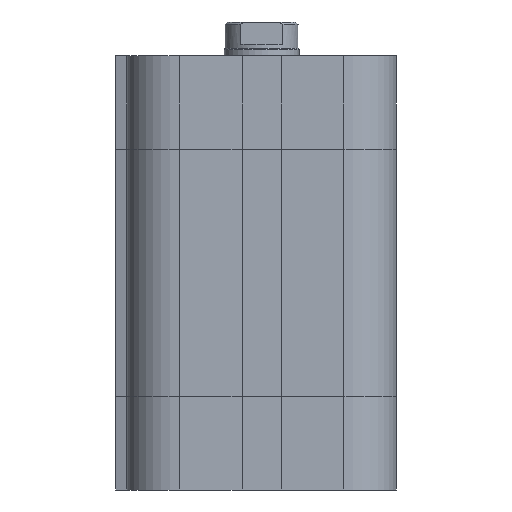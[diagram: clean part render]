
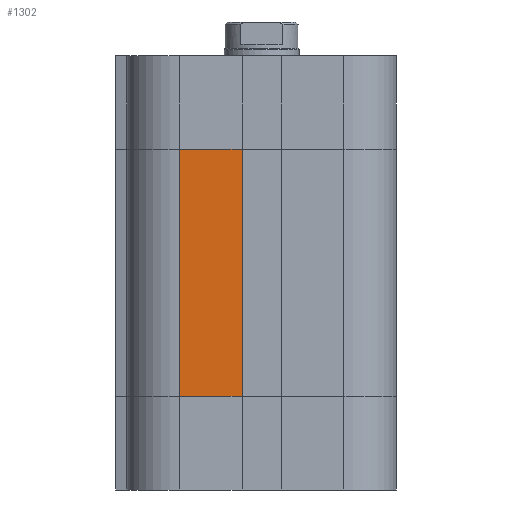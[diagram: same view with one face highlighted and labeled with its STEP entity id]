
A CAD part, left-side view. The second image highlights one B-rep face of the part: STEP entity #1302.
In plain terms, the highlighted planar face has unit normal (-1, 0, 0).
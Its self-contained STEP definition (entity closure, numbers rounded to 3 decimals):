
#1213=CARTESIAN_POINT('',(-18.,11.0,12.5));
#1214=VERTEX_POINT('',#1213);
#1222=CARTESIAN_POINT('',(-18.,11.0,45.5));
#1223=VERTEX_POINT('',#1222);
#1224=CARTESIAN_POINT('',(-18.,11.0,12.5));
#1225=DIRECTION('',(0.0,0.0,1.0));
#1226=VECTOR('',#1225,33.);
#1227=LINE('',#1224,#1226);
#1228=EDGE_CURVE('',#1214,#1223,#1227,.T.);
#1272=CARTESIAN_POINT('',(-18.0,2.6,0.0));
#1273=DIRECTION('',(-1.0,0.0,0.0));
#1274=DIRECTION('',(0.0,0.0,1.0));
#1275=AXIS2_PLACEMENT_3D('',#1272,#1273,#1274);
#1276=PLANE('',#1275);
#1277=CARTESIAN_POINT('',(-18.0,2.6,12.5));
#1278=VERTEX_POINT('',#1277);
#1279=CARTESIAN_POINT('',(-18.,11.0,12.5));
#1280=DIRECTION('',(0.0,-1.0,0.0));
#1281=VECTOR('',#1280,8.4);
#1282=LINE('',#1279,#1281);
#1283=EDGE_CURVE('',#1214,#1278,#1282,.T.);
#1284=ORIENTED_EDGE('',*,*,#1283,.T.);
#1285=CARTESIAN_POINT('',(-18.0,2.6,45.5));
#1286=VERTEX_POINT('',#1285);
#1287=CARTESIAN_POINT('',(-18.0,2.6,12.5));
#1288=DIRECTION('',(0.0,0.0,1.0));
#1289=VECTOR('',#1288,33.);
#1290=LINE('',#1287,#1289);
#1291=EDGE_CURVE('',#1278,#1286,#1290,.T.);
#1292=ORIENTED_EDGE('',*,*,#1291,.T.);
#1293=CARTESIAN_POINT('',(-18.,11.0,45.5));
#1294=DIRECTION('',(0.0,-1.0,0.0));
#1295=VECTOR('',#1294,8.4);
#1296=LINE('',#1293,#1295);
#1297=EDGE_CURVE('',#1223,#1286,#1296,.T.);
#1298=ORIENTED_EDGE('',*,*,#1297,.F.);
#1299=ORIENTED_EDGE('',*,*,#1228,.F.);
#1300=EDGE_LOOP('',(#1284,#1292,#1298,#1299));
#1301=FACE_OUTER_BOUND('',#1300,.T.);
#1302=ADVANCED_FACE('',(#1301),#1276,.T.);
